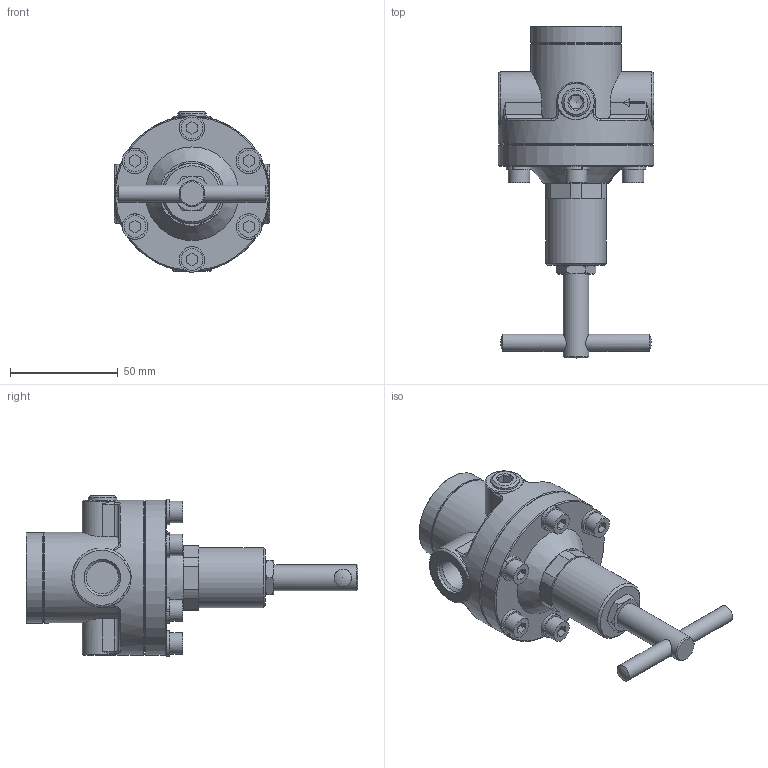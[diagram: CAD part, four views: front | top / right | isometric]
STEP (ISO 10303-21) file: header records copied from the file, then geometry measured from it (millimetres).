
FILE_DESCRIPTION(/* description */ (''),/* implementation_level */ '2;1');
FILE_NAME(/* name */ 'U:/AirCom-Produktdokumentation/Druckregler/R286/Zeichnungen/CAD-Aircom/3D/B-286-03x.step',/* time_stamp */ '2022-06-07T13:06:31+02:00',/* author */ (''),/* organization */ (''),/* preprocessor_version */ 'ST-DEVELOPER v19',/* originating_system */ 'Autodesk Translation Framework v11.7.0.108',/* authorisation */ '');
FILE_SCHEMA (('AUTOMOTIVE_DESIGN { 1 0 10303 214 3 1 1 }'));
Length unit declared in the file: millimetre
Products named in the file (1): 302_53X
Bounding box: 72 x 153.94 x 74.4 mm (x, y, z)
Volume: 153885 mm3; surface area: 55452.5 mm2
Topology: 1 solids, 2 shells, 412 faces, 1003 edges, 623 vertices
Faces by surface type: plane 197, cylinder 120, cone 48, torus 29, bspline 15, sphere 3
Full cylindrical faces by diameter (mm): 2 x2, 3 x1, 3.2 x4, 4 x1, 5.1 x1, 5.5 x1, 6 x6, 6.5 x6, 8 x2, 9 x1, 9.3 x1, 10 x7, 11 x2, 11.5 x2, 12 x2, 13 x1, 13.16 x1, 14.95 x2, 17 x2, 22 x1, 24 x1, 28 x1, 28.5 x1, 31 x1, 34 x1, 36 x1, 37 x1, 41.2 x1, 42 x2, 44 x1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
Entity records: 15643 total; most frequent: CARTESIAN_POINT 5971, DIRECTION 2052, ORIENTED_EDGE 1976, EDGE_CURVE 988, AXIS2_PLACEMENT_3D 801, VERTEX_POINT 623, EDGE_LOOP 481, LINE 450
